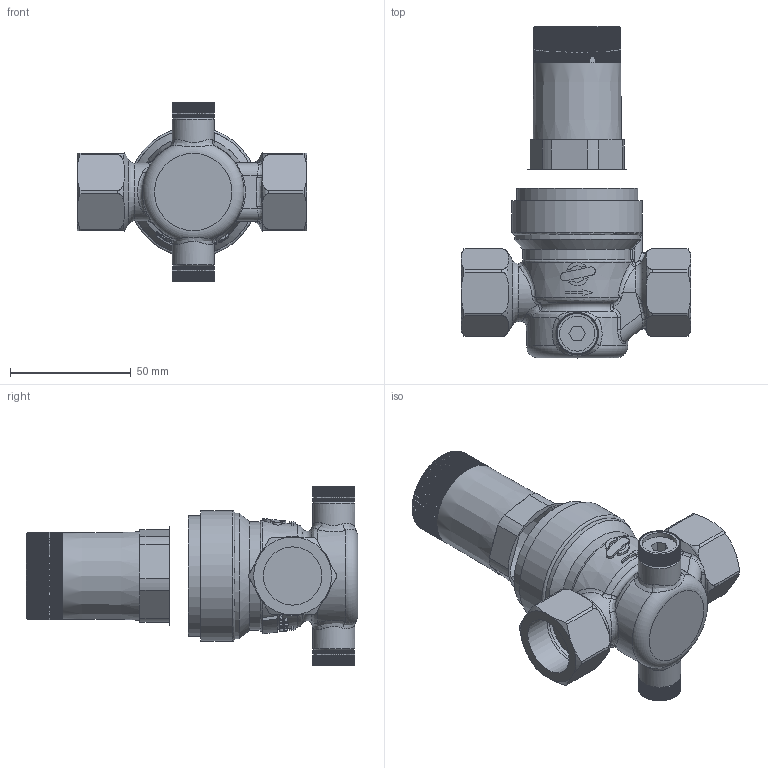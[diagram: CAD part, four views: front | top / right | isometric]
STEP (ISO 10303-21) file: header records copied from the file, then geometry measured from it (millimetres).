
FILE_DESCRIPTION(/* description */ (''),/* implementation_level */ '2;1');
FILE_NAME(/* name */ 'U:/AirCom-Produktdokumentation/Druckregler/RWI/Zeichnungen/CAD-Aircom/3D/B-RWI-06C.step',/* time_stamp */ '2022-07-01T12:43:18+02:00',/* author */ (''),/* organization */ (''),/* preprocessor_version */ 'ST-DEVELOPER v19',/* originating_system */ 'Autodesk Translation Framework v11.7.0.108',/* authorisation */ '');
FILE_SCHEMA (('AUTOMOTIVE_DESIGN { 1 0 10303 214 3 1 1 }'));
Products named in the file (1): 003303_step
Bounding box: 95 x 137.3 x 73.8 mm (x, y, z)
Volume: 229714.4 mm3; surface area: 36168.9 mm2
Topology: 1 solids, 2 shells, 2470 faces, 6796 edges, 4361 vertices
Faces by surface type: plane 1605, cylinder 658, bspline 132, cone 49, torus 24, sphere 2
Full cylindrical faces by diameter (mm): 13 x1, 14.5 x2, 17.5 x2, 24.117 x2, 25 x2, 41.4 x1, 50 x1, 54 x1
Entity records: 87800 total; most frequent: CARTESIAN_POINT 23126, ORIENTED_EDGE 13582, DIRECTION 12430, EDGE_CURVE 6791, VERTEX_POINT 4361, AXIS2_PLACEMENT_3D 4148, LINE 4134, VECTOR 4134
